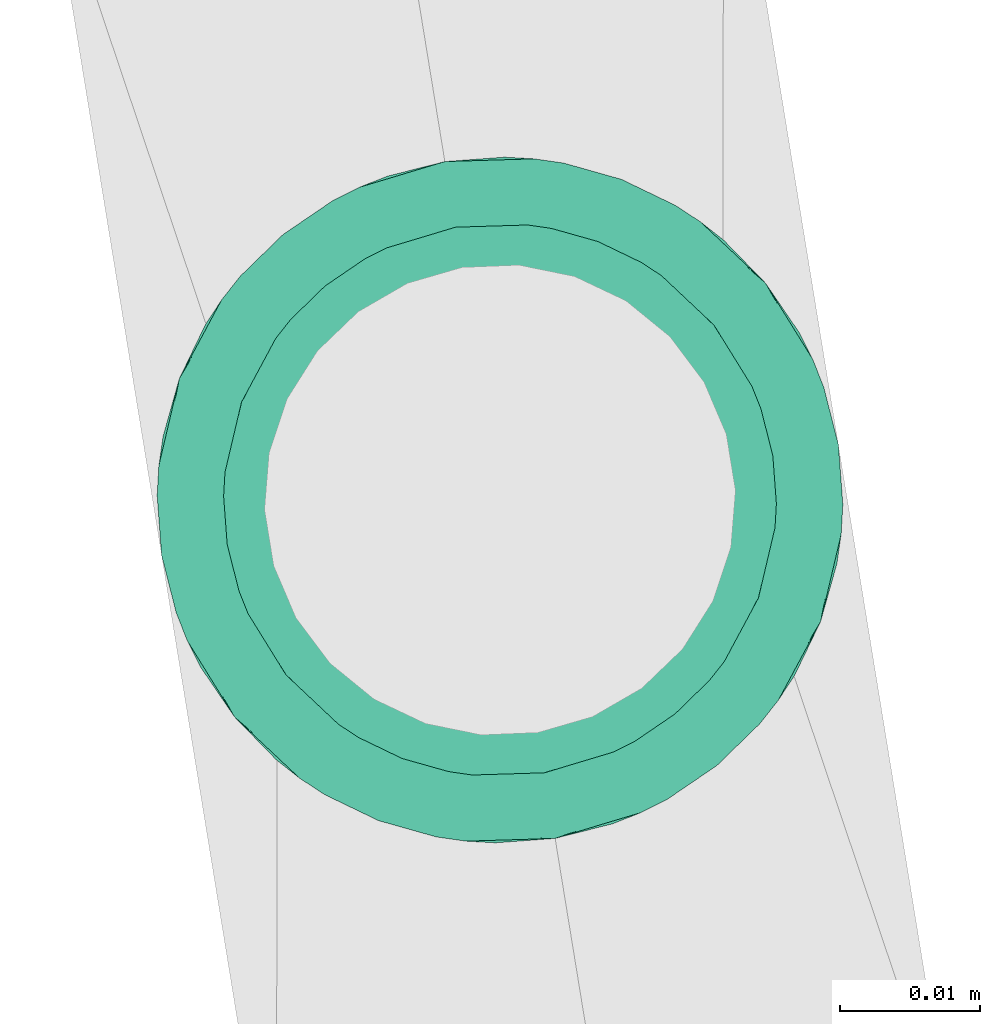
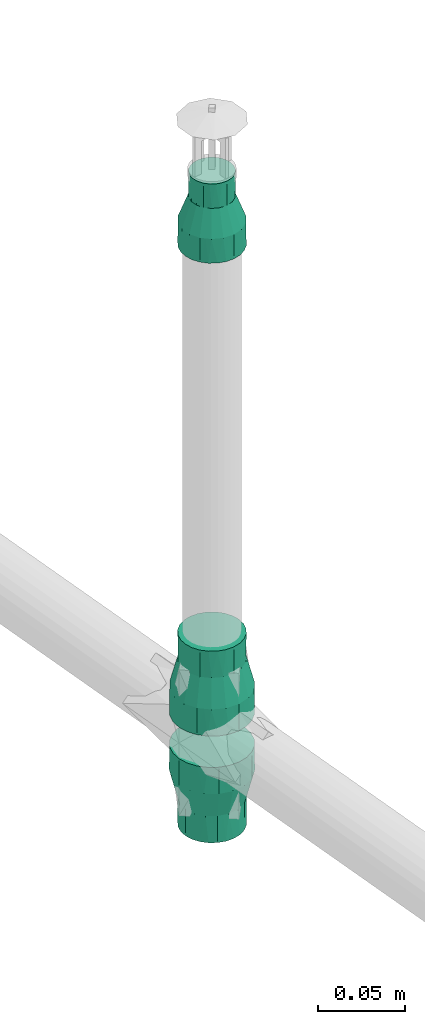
# One storey, part 40 of 56: 3 flow fittings.
"""IFC2X3 building model written with IfcOpenShell, lengths in millimetres."""

from ifc_helpers import new_model, entity, si_unit, converted_unit, derived_unit, direction, frame, origin, origin_with_axes, place, context, subcontext, project, spatial, faceted_brep, source, transform, mapped, material, type_object, element, save


model = new_model("IFC2X3")

# Units and contexts
model_context = context("Model", 3, precision=0.01, world=origin(), true_north=direction((6.12323399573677e-17, 1.0)))
plan_context = context("Plan", 3, precision=1e-05, world=origin_with_axes())
body_context = subcontext(model_context, "Body", "Model", "MODEL_VIEW")
ifc_project = project(units=[converted_unit("PLANEANGLEUNIT", "DEGREE", entity("IfcPositiveLengthMeasure", 0.0174532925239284), si_unit("PLANEANGLEUNIT", "RADIAN"), dimensions=[0, 0, 0, 0, 0, 0, 0]), si_unit("AREAUNIT", "SQUARE_METRE"), si_unit("LENGTHUNIT", "METRE", prefix="MILLI"), si_unit("MASSUNIT", "GRAM", prefix="KILO"), si_unit("POWERUNIT", "WATT"), si_unit("PRESSUREUNIT", "PASCAL", prefix="KILO"), si_unit("FORCEUNIT", "NEWTON", prefix="KILO"), si_unit("ELECTRICVOLTAGEUNIT", "VOLT"), si_unit("ELECTRICCURRENTUNIT", "AMPERE"), si_unit("THERMODYNAMICTEMPERATUREUNIT", "DEGREE_CELSIUS"), si_unit("TIMEUNIT", "SECOND"), si_unit("VOLUMEUNIT", "CUBIC_METRE"), derived_unit("LINEARVELOCITYUNIT", [(si_unit("LENGTHUNIT", "METRE"), 1), (si_unit("TIMEUNIT", "SECOND"), -1)]), derived_unit("VOLUMETRICFLOWRATEUNIT", [(si_unit("VOLUMEUNIT", "CUBIC_METRE"), 1), (si_unit("TIMEUNIT", "SECOND"), -1)]), derived_unit("THERMALTRANSMITTANCEUNIT", [(si_unit("POWERUNIT", "WATT"), 1), (si_unit("THERMODYNAMICTEMPERATUREUNIT", "KELVIN"), -1), (si_unit("AREAUNIT", "SQUARE_METRE"), -1)]), derived_unit("SOUNDPRESSUREUNIT", [(si_unit("PRESSUREUNIT", "PASCAL"), 1)])], contexts=[model_context, plan_context])

# Site, building, storey
site_placement = place(None, frame((-3.09682673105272e-06, 1.93776733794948e-05, 0.0), z_axis=(0.0, 0.0, 1.0), x_axis=(-0.160806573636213, 0.986985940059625, 0.0)))
site = spatial("IfcSite", under=ifc_project, at=site_placement, Name="Default", CompositionType="ELEMENT")
building_placement = place(site_placement, frame((0.0, 0.0, 0.0), z_axis=(0.0, 0.0, 1.0), x_axis=(1.0, -2.77555756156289e-17, 0.0)))
building = spatial("IfcBuilding", under=site, at=building_placement, Name="Bygning (endres i Project Information)", CompositionType="ELEMENT")
storey_placement = place(building_placement, frame((0.0, 0.0, 51360.0000000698), z_axis=(0.0, 0.0, 1.0), x_axis=(1.0, -2.77555756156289e-17, 0.0)))
storey = spatial("IfcBuildingStorey", under=building, at=storey_placement, Name="H01-Nivå D+0,36", CompositionType="ELEMENT", Elevation=51360.0000000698)

# Flow fittings
ifc_material = material(Name="3320.001")
pipe_fitting_type_1 = type_object("IfcPipeFittingType", Name="RS_53_PIF_UN_Reducing-Socket-EN10241_MC_gen:RS_53_PIF_UN_Reducing-Socket-EN10241_MC_gen", PredefinedType="NOTDEFINED", material=ifc_material)
shared_shape_1 = source(origin(), body_context, "Body", "Brep", [
    faceted_brep([(0.0, 5.11167614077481, 19.0770350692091), (0.0, 9.87500000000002, 17.1040017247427), (0.0, 13.9653589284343, 13.9653589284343), (0.0, 17.1040017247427, 9.87499999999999), (0.0, 19.0770350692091, 5.11167614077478), (0.0, 19.75, 0.0), (0.0, 19.0770350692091, -5.1116761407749), (0.0, 17.1040017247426, -9.8750000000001), (0.0, 13.9653589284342, -13.9653589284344), (0.0, 9.87499999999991, -17.1040017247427), (0.0, 5.11167614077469, -19.0770350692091), (0.0, 0.0, -19.75), (0.0, -5.11167614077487, -19.0770350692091), (0.0, -9.87500000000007, -17.1040017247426), (0.0, -13.9653589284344, -13.9653589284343), (0.0, -17.1040017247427, -9.87499999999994), (0.0, -19.0770350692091, -5.11167614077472), (0.0, -19.75, 0.0), (0.0, -19.0770350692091, 5.11167614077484), (0.0, -17.1040017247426, 9.87500000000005), (0.0, -13.9653589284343, 13.9653589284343), (0.0, -9.87499999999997, 17.1040017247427), (0.0, -5.11167614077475, 19.0770350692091), (0.0, 0.0, 19.75), (17.0, -6.65118285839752, -18.277344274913), (17.0, -15.1289479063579, -12.6955675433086), (17.0, -16.8438814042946, -9.72538978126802), (17.0, -18.5588149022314, -6.7552120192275), (17.0, -9.87413131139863, -17.1045032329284), (17.0, -12.5015396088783, -14.9000353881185), (17.0, -19.1544074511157, -3.37760600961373), (17.0, -3.42823440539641, -19.4501853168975), (17.0, 3.43119786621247, -19.4496627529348), (17.0, 0.0014817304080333, -19.4499240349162), (17.0, -19.75, 0.0), (17.0, 6.65396758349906, -18.2763306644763), (17.0, 9.87673730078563, -17.1029985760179), (17.0, 18.5598439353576, -6.75238425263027), (17.0, 16.8453630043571, -9.7228232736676), (17.0, 15.1308820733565, -12.6932622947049), (17.0, 12.5038096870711, -14.8981304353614), (17.0, 19.75, 0.0), (17.0, 15.1308820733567, 12.6932622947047), (17.0, 16.8453630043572, 9.72282327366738), (17.0, 18.5598439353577, 6.75238425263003), (17.0, 9.87673730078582, 17.1029985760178), (17.0, 12.5038096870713, 14.8981304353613), (17.0, 3.43119786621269, 19.4496627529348), (17.0, 6.65396758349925, 18.2763306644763), (17.0, -3.4282344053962, 19.4501853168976), (17.0, 0.00148173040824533, 19.4499240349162), (17.0, -15.1289479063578, 12.6955675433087), (17.0, -6.65118285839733, 18.277344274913), (17.0, -9.87413131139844, 17.1045032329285), (17.0, -12.5015396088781, 14.9000353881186), (17.0, -19.1544074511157, 3.37760600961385), (17.0, -18.5588149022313, 6.75521201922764), (17.0, -16.8438814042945, 9.72538978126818), (34.0, 13.5000000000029, 0.0), (34.0, 12.6868795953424, -4.61444320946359), (34.0, -4.54589529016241, -12.4935366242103), (34.0, -2.34276817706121, -13.2951659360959), (34.0, 6.75195505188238, -11.6902139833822), (34.0, 0.00166747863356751, -13.2948718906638), (34.0, 2.34610313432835, -13.2945778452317), (34.0, 10.3432928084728, -8.67561489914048), (34.0, 8.54762393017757, -10.1829144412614), (34.0, 4.54902909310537, -12.492395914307), (34.0, 11.5150862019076, -6.64502905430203), (34.0, -6.74902240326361, -11.6919073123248), (34.0, -13.4999999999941, 0.0), (34.0, -13.0928608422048, -2.30881275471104), (34.0, -10.3411162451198, -8.6782091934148), (34.0, -8.54506932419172, -10.1850582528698), (34.0, -12.6857216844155, -4.61762550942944), (34.0, -11.5134189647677, -6.64791735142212), (34.0, -13.0928608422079, 2.30881275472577), (34.0, -12.6857216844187, 4.6176255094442), (34.0, 2.34610313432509, 13.2945778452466), (34.0, 4.54902909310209, 12.4923959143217), (34.0, -10.3411162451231, 8.67820919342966), (34.0, 0.00166747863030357, 13.2948718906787), (34.0, -6.74902240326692, 11.6919073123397), (34.0, -8.54506932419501, 10.1850582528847), (34.0, -11.5134189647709, 6.64791735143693), (34.0, -2.34276817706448, 13.2951659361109), (34.0, -4.5458952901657, 12.4935366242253), (34.0, 12.6868795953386, 4.61444320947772), (34.0, 11.5150862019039, 6.64502905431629), (34.0, 10.3432928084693, 8.67561489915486), (34.0, 6.7519550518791, 11.6902139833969), (34.0, 8.54762393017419, 10.1829144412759), (51.0, 3.49405710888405, -13.0399986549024), (51.0, 6.75000000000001, -11.6913429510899), (51.0, 9.5459415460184, -9.54594154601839), (51.0, 11.6913429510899, -6.74999999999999), (51.0, 13.0399986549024, -3.49405710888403), (51.0, 13.5, 0.0), (51.0, 13.0399986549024, 3.49405710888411), (51.0, 11.6913429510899, 6.75000000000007), (51.0, 9.54594154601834, 9.54594154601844), (51.0, 6.74999999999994, 11.69134295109), (51.0, 3.49405710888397, 13.0399986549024), (51.0, 0.0, 13.5), (51.0, -3.49405710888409, 13.0399986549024), (51.0, -6.75000000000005, 11.6913429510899), (51.0, -9.54594154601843, 9.54594154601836), (51.0, -11.6913429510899, 6.74999999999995), (51.0, -13.0399986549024, 3.49405710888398), (51.0, -13.5, 0.0), (51.0, -13.0399986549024, -3.49405710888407), (51.0, -11.6913429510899, -6.75000000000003), (51.0, -9.54594154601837, -9.54594154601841), (51.0, -6.74999999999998, -11.6913429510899), (51.0, -3.49405710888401, -13.0399986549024), (51.0, 0.0, -13.5)], [[[0, 1, 2, 3, 4, 5, 6, 7, 8, 9, 10, 11, 12, 13, 14, 15, 16, 17, 18, 19, 20, 21, 22, 23]], [[24, 13, 12]], [[15, 14, 25]], [[15, 25, 26, 27]], [[28, 29, 13]], [[16, 27, 30]], [[30, 17, 16]], [[15, 27, 16]], [[12, 31, 24]], [[25, 14, 29]], [[11, 32, 33, 31]], [[24, 28, 13]], [[13, 29, 14]], [[30, 34, 17]], [[32, 11, 10]], [[35, 9, 36]], [[7, 37, 38, 39]], [[9, 35, 10]], [[7, 6, 37]], [[8, 39, 40]], [[32, 10, 35]], [[7, 39, 8]], [[40, 36, 9]], [[6, 41, 37]], [[6, 5, 41]], [[11, 31, 12]], [[40, 9, 8]], [[41, 5, 4]], [[3, 2, 42]], [[3, 42, 43, 44]], [[45, 46, 1]], [[44, 41, 4]], [[0, 47, 48]], [[42, 2, 46]], [[23, 49, 50, 47]], [[1, 46, 2]], [[49, 23, 22]], [[19, 51, 20]], [[52, 21, 53]], [[3, 44, 4]], [[48, 45, 1]], [[54, 53, 21]], [[17, 34, 55]], [[21, 52, 22]], [[20, 51, 54]], [[49, 22, 52]], [[48, 1, 0]], [[17, 55, 18]], [[56, 19, 18]], [[18, 55, 56]], [[54, 21, 20]], [[57, 51, 19, 56]], [[23, 47, 0]], [[41, 58, 59]], [[60, 31, 61]], [[40, 62, 36]], [[63, 32, 64]], [[65, 39, 38]], [[64, 32, 35]], [[61, 33, 63]], [[37, 41, 59]], [[62, 40, 66]], [[40, 39, 66]], [[35, 36, 67]], [[65, 38, 68]], [[37, 68, 38]], [[64, 35, 67]], [[61, 31, 33]], [[69, 28, 24]], [[69, 24, 60]], [[70, 30, 71]], [[72, 29, 73]], [[30, 70, 34]], [[74, 27, 26]], [[68, 37, 59]], [[72, 25, 29]], [[27, 74, 71]], [[31, 60, 24]], [[29, 28, 73]], [[75, 26, 25]], [[67, 36, 62]], [[66, 39, 65]], [[27, 71, 30]], [[74, 26, 75]], [[73, 28, 69]], [[63, 33, 32]], [[75, 25, 72]], [[56, 76, 77]], [[48, 78, 79]], [[54, 51, 80]], [[81, 47, 50]], [[57, 56, 77]], [[52, 53, 82]], [[82, 53, 83]], [[55, 70, 76]], [[70, 55, 34]], [[84, 51, 57]], [[50, 85, 81]], [[56, 55, 76]], [[86, 49, 52]], [[83, 53, 54]], [[81, 78, 47]], [[48, 47, 78]], [[80, 51, 84]], [[49, 85, 50]], [[87, 44, 88]], [[87, 58, 41]], [[43, 42, 89]], [[57, 77, 84]], [[46, 45, 90]], [[85, 49, 86]], [[88, 44, 43]], [[54, 80, 83]], [[91, 42, 46]], [[52, 82, 86]], [[89, 42, 91]], [[87, 41, 44]], [[90, 45, 79]], [[46, 90, 91]], [[79, 45, 48]], [[43, 89, 88]], [[92, 93, 94, 95, 96, 97, 98, 99, 100, 101, 102, 103, 104, 105, 106, 107, 108, 109, 110, 111, 112, 113, 114, 115]], [[58, 97, 96]], [[95, 94, 65]], [[95, 65, 68, 59]], [[62, 66, 93]], [[59, 58, 96]], [[92, 64, 67]], [[65, 94, 66]], [[115, 61, 63, 64]], [[93, 66, 94]], [[67, 93, 92]], [[67, 62, 93]], [[95, 59, 96]], [[114, 61, 115]], [[111, 110, 74]], [[73, 113, 112]], [[109, 71, 110]], [[111, 74, 75, 72]], [[109, 70, 71]], [[60, 61, 114]], [[113, 69, 60]], [[111, 72, 112]], [[113, 60, 114]], [[112, 72, 73]], [[115, 64, 92]], [[71, 74, 110]], [[73, 69, 113]], [[86, 105, 104]], [[107, 106, 80]], [[107, 80, 84, 77]], [[82, 83, 105]], [[108, 77, 76]], [[76, 70, 109]], [[76, 109, 108]], [[104, 85, 86]], [[80, 106, 83]], [[103, 78, 81, 85]], [[91, 101, 100]], [[105, 83, 106]], [[86, 82, 105]], [[78, 103, 102]], [[79, 101, 90]], [[99, 87, 88, 89]], [[101, 79, 102]], [[99, 98, 87]], [[100, 89, 91]], [[78, 102, 79]], [[103, 85, 104]], [[99, 89, 100]], [[98, 58, 87]], [[107, 77, 108]], [[98, 97, 58]], [[91, 90, 101]]]),
])
flow_fitting_1_placement = place(storey_placement, frame((997236.263254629, -392286.663841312, 3707.99999993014), z_axis=(2.77555756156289e-17, 1.0, 0.0), x_axis=(0.0, 0.0, 1.0)))
element("IfcFlowFitting", 1, at=flow_fitting_1_placement, inside=storey, type_object=pipe_fitting_type_1, material=ifc_material, Name="RS_53_PIF_UN_Reducing-Socket-EN10241_MC_gen:RS_53_PIF_UN_Reducing-Socket-EN10241_MC_gen", ObjectType="RS_53_PIF_UN_Reducing-Socket-EN10241_MC_gen:RS_53_PIF_UN_Reducing-Socket-EN10241_MC_gen", context=body_context, shape_type="MappedRepresentation", body=[
    mapped(shared_shape_1, transform((0.0, 0.0, 0.0), scale=1.0)),
])
pipe_fitting_type_2 = type_object("IfcPipeFittingType", Name="RS_53_PIF_UN_Reducing-Socket-EN10241_MC_gen:RS_53_PIF_UN_Reducing-Socket-EN10241_MC_gen", PredefinedType="NOTDEFINED", material=ifc_material)
shared_shape_2 = source(origin(), body_context, "Body", "Brep", [
    faceted_brep([(0.0, 0.0, 24.5), (0.0, 6.34106660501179, 23.6651827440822), (0.0, 12.25, 21.2176223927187), (0.0, 17.3241161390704, 17.3241161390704), (0.0, 21.2176223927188, 12.25), (0.0, 23.6651827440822, 6.34106660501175), (0.0, 24.5, 0.0), (0.0, 23.6651827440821, -6.34106660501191), (0.0, 21.2176223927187, -12.2500000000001), (0.0, 17.3241161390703, -17.3241161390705), (0.0, 12.2499999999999, -21.2176223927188), (0.0, 6.34106660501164, -23.6651827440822), (0.0, 0.0, -24.5), (0.0, -6.34106660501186, -23.6651827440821), (0.0, -12.2500000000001, -21.2176223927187), (0.0, -17.3241161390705, -17.3241161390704), (0.0, -21.2176223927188, -12.2499999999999), (0.0, -23.6651827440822, -6.34106660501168), (0.0, -24.5, 0.0), (0.0, -23.6651827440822, 6.34106660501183), (0.0, -21.2176223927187, 12.2500000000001), (0.0, -17.3241161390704, 17.3241161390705), (0.0, -12.25, 21.2176223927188), (0.0, -6.34106660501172, 23.6651827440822), (18.6666666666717, -8.25137606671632, -22.6729794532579), (18.6666666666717, -18.7677686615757, -15.7486780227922), (18.6666666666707, -20.8950763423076, -12.0642027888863), (18.6666666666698, -23.0223840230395, -8.37972755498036), (18.6666666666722, -12.2493529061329, -21.2179959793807), (18.6666666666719, -15.5085607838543, -18.4833370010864), (18.6666666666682, -23.7125607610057, -4.46565710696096), (18.6666666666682, -23.7611920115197, -4.18986377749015), (18.6666666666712, -4.25339922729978, -24.1279629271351), (18.6666666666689, 4.25560674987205, -24.1275736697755), (18.6666666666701, 0.00110376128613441, -24.1277682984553), (18.6666666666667, -24.5, 0.0), (18.6666666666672, 8.25345045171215, -22.6722244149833), (18.6666666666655, 12.2512941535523, -21.2168751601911), (18.6666666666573, 23.0231506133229, -8.37762113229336), (18.6666666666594, 20.8961800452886, -12.062290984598), (18.6666666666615, 18.7692094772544, -15.7469608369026), (18.6666666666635, 15.5102518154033, -18.4819179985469), (18.6666666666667, 24.5, 0.0), (18.6666666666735, 18.7692094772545, 15.7469608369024), (18.666666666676, 20.8961800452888, 12.0622909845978), (18.6666666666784, 23.023150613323, 8.3776211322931), (18.6666666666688, 12.2512941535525, 21.216875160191), (18.6666666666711, 15.5102518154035, 18.4819179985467), (18.6666666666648, 4.25560674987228, 24.1275736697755), (18.6666666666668, 8.25345045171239, 22.6722244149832), (18.6666666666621, -4.25339922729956, 24.1279629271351), (18.6666666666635, 0.00110376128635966, 24.1277682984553), (18.6666666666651, -23.7611920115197, 4.1898637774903), (18.6666666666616, -8.25137606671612, 22.672979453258), (18.666666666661, -12.2493529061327, 21.2179959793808), (18.6666666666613, -15.5085607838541, 18.4833370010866), (18.6666666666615, -18.7677686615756, 15.7486780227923), (18.6666666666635, -23.0223840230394, 8.37972755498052), (18.6666666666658, -23.7125607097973, 4.46565739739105), (18.6666666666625, -20.8950763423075, 12.0642027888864), (37.3333333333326, 19.750000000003, 0.0), (37.3333333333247, 18.5595959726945, -6.75306577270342), (37.3333333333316, 9.87626627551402, -17.1032705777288), (37.3333333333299, 12.5033702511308, -14.8985095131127), (37.3333333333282, 15.1304742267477, -12.6937484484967), (37.3333333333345, 3.43075149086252, -19.4497414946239), (37.333333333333, 6.65350888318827, -18.2765060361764), (37.3333333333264, 16.8450350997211, -9.72340711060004), (37.3333333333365, -3.42859151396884, -19.4501223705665), (37.3333333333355, 0.00107998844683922, -19.4499319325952), (37.3333333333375, -9.87436684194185, -17.1043672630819), (37.333333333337, -6.65147917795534, -18.2772448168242), (37.3333333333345, -19.1544229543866, -3.37756341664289), (37.3333333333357, -18.558845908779, -6.75512683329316), (37.3333333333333, -19.7499999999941, 0.0), (37.3333333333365, -16.8439551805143, -9.72527774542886), (37.3333333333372, -15.1290644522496, -12.6954286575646), (37.3333333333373, -12.5017156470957, -14.8998979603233), (37.3333333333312, -18.5588459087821, 6.755126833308), (37.3333333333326, -19.1544229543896, 3.37756341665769), (37.3333333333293, -15.1290644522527, 12.6954286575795), (37.3333333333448, 18.559595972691, 6.75306577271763), (37.3333333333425, 16.8450350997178, 9.72340711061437), (37.3333333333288, -9.87436684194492, 17.104367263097), (37.3333333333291, -12.5017156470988, 14.8998979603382), (37.3333333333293, -6.65147917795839, 18.2772448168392), (37.3333333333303, -16.8439551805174, 9.72527774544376), (37.333333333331, 0.00107998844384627, 19.4499319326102), (37.3333333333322, 3.43075149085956, 19.4497414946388), (37.3333333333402, 15.1304742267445, 12.6937484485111), (37.333333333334, 6.65350888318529, 18.2765060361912), (37.3333333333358, 9.87626627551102, 17.1032705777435), (37.333333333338, 12.5033702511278, 14.8985095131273), (37.3333333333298, -3.42859151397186, 19.4501223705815), (56.0, 5.11167614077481, -19.0770350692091), (56.0, 9.87500000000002, -17.1040017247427), (56.0, 13.9653589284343, -13.9653589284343), (56.0, 17.1040017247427, -9.87499999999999), (56.0, 19.0770350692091, -5.11167614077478), (56.0, 19.75, 0.0), (56.0, 19.0770350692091, 5.1116761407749), (56.0, 17.1040017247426, 9.8750000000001), (56.0, 13.9653589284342, 13.9653589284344), (56.0, 9.87499999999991, 17.1040017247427), (56.0, 5.11167614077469, 19.0770350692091), (56.0, 0.0, 19.75), (56.0, -5.11167614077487, 19.0770350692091), (56.0, -9.87500000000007, 17.1040017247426), (56.0, -13.9653589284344, 13.9653589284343), (56.0, -17.1040017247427, 9.87499999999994), (56.0, -19.0770350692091, 5.11167614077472), (56.0, -19.75, 0.0), (56.0, -19.0770350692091, -5.11167614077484), (56.0, -17.1040017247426, -9.87500000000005), (56.0, -13.9653589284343, -13.9653589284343), (56.0, -9.87499999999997, -17.1040017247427), (56.0, -5.11167614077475, -19.0770350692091), (56.0, 0.0, -19.75)], [[[0, 1, 2, 3, 4, 5, 6, 7, 8, 9, 10, 11, 12, 13, 14, 15, 16, 17, 18, 19, 20, 21, 22, 23]], [[24, 14, 13]], [[16, 15, 25]], [[16, 25, 26, 27]], [[28, 29, 14]], [[17, 27, 30, 31]], [[31, 18, 17]], [[16, 27, 17]], [[13, 32, 24]], [[25, 15, 29]], [[12, 33, 34, 32]], [[24, 28, 14]], [[14, 29, 15]], [[31, 35, 18]], [[33, 12, 11]], [[36, 10, 37]], [[8, 38, 39, 40]], [[10, 36, 11]], [[8, 7, 38]], [[9, 40, 41]], [[33, 11, 36]], [[8, 40, 9]], [[41, 37, 10]], [[7, 42, 38]], [[7, 6, 42]], [[12, 32, 13]], [[41, 10, 9]], [[42, 6, 5]], [[4, 3, 43]], [[4, 43, 44, 45]], [[46, 47, 2]], [[45, 42, 5]], [[1, 48, 49]], [[43, 3, 47]], [[0, 50, 51, 48]], [[2, 47, 3]], [[50, 0, 23]], [[0, 48, 1]], [[18, 52, 19]], [[53, 22, 54]], [[49, 2, 1]], [[55, 22, 21]], [[35, 52, 18]], [[4, 45, 5]], [[22, 53, 23]], [[21, 56, 55]], [[50, 23, 53]], [[49, 46, 2]], [[20, 56, 21]], [[57, 20, 19]], [[19, 52, 58, 57]], [[55, 54, 22]], [[59, 56, 20, 57]], [[42, 60, 61]], [[41, 62, 37]], [[63, 40, 64]], [[40, 39, 64]], [[33, 36, 65]], [[65, 36, 66]], [[38, 42, 61]], [[64, 39, 67]], [[41, 40, 63]], [[36, 37, 66]], [[62, 41, 63]], [[38, 67, 39]], [[68, 34, 69]], [[68, 32, 34]], [[24, 70, 28]], [[32, 68, 71]], [[72, 35, 31, 30]], [[73, 27, 26]], [[72, 74, 35]], [[26, 75, 73]], [[76, 25, 29]], [[29, 77, 76]], [[70, 24, 71]], [[24, 32, 71]], [[70, 77, 28]], [[76, 75, 25]], [[28, 77, 29]], [[25, 75, 26]], [[73, 30, 27]], [[30, 73, 72]], [[66, 37, 62]], [[69, 34, 33]], [[69, 33, 65]], [[67, 38, 61]], [[78, 58, 79]], [[80, 55, 56]], [[81, 45, 82]], [[78, 59, 57]], [[83, 53, 54]], [[55, 80, 84]], [[79, 58, 52, 35]], [[78, 57, 58]], [[84, 54, 55]], [[85, 50, 53]], [[79, 35, 74]], [[86, 56, 59]], [[84, 83, 54]], [[48, 87, 88]], [[49, 48, 88]], [[59, 78, 86]], [[53, 83, 85]], [[87, 48, 51]], [[81, 60, 42]], [[44, 43, 89]], [[90, 46, 49]], [[47, 46, 91]], [[86, 80, 56]], [[82, 45, 44]], [[49, 88, 90]], [[92, 43, 47]], [[91, 46, 90]], [[51, 50, 93]], [[42, 45, 81]], [[85, 93, 50]], [[44, 89, 82]], [[51, 93, 87]], [[47, 91, 92]], [[89, 43, 92]], [[94, 95, 96, 97, 98, 99, 100, 101, 102, 103, 104, 105, 106, 107, 108, 109, 110, 111, 112, 113, 114, 115, 116, 117]], [[60, 99, 98]], [[97, 96, 64]], [[97, 64, 67, 61]], [[62, 63, 95]], [[61, 60, 98]], [[94, 65, 66]], [[64, 96, 63]], [[117, 68, 69, 65]], [[95, 63, 96]], [[117, 116, 68]], [[77, 70, 115]], [[66, 95, 94]], [[115, 70, 71]], [[113, 112, 73]], [[115, 71, 116]], [[117, 65, 94]], [[97, 61, 98]], [[72, 111, 74]], [[71, 68, 116]], [[113, 76, 114]], [[114, 76, 77]], [[77, 115, 114]], [[113, 73, 75, 76]], [[111, 72, 112]], [[66, 62, 95]], [[72, 73, 112]], [[85, 107, 106]], [[109, 108, 80]], [[109, 80, 86, 78]], [[83, 84, 107]], [[110, 78, 79]], [[79, 111, 110]], [[109, 78, 110]], [[106, 93, 85]], [[80, 108, 84]], [[105, 88, 87, 93]], [[85, 83, 107]], [[107, 84, 108]], [[79, 74, 111]], [[88, 105, 104]], [[90, 103, 91]], [[101, 81, 82, 89]], [[103, 90, 104]], [[101, 100, 81]], [[102, 89, 92]], [[88, 104, 90]], [[101, 89, 102]], [[92, 91, 103]], [[100, 60, 81]], [[100, 99, 60]], [[105, 93, 106]], [[92, 103, 102]]]),
])
flow_fitting_2_placement = place(storey_placement, frame((997236.263254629, -392286.663841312, 3380.93333333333), z_axis=(2.77555756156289e-17, 1.0, 0.0), x_axis=(0.0, 0.0, 1.0)))
element("IfcFlowFitting", 2, at=flow_fitting_2_placement, inside=storey, type_object=pipe_fitting_type_2, material=ifc_material, Name="RS_53_PIF_UN_Reducing-Socket-EN10241_MC_gen:RS_53_PIF_UN_Reducing-Socket-EN10241_MC_gen", ObjectType="RS_53_PIF_UN_Reducing-Socket-EN10241_MC_gen:RS_53_PIF_UN_Reducing-Socket-EN10241_MC_gen", context=body_context, shape_type="MappedRepresentation", body=[
    mapped(shared_shape_2, transform((0.0, 0.0, 0.0), scale=1.0)),
])
pipe_fitting_type_3 = type_object("IfcPipeFittingType", Name="RS_53_PIF_UN_Reducing-Socket-EN10241_MC_gen:RS_53_PIF_UN_Reducing-Socket-EN10241_MC_gen", PredefinedType="NOTDEFINED", material=ifc_material)
shared_shape_3 = source(origin(), body_context, "Body", "Brep", [
    faceted_brep([(0.0, -12.25, 21.2176223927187), (0.0, -6.34106660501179, 23.6651827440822), (0.0, 0.0, 24.5), (0.0, 6.34106660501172, 23.6651827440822), (0.0, 12.25, 21.2176223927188), (0.0, 17.3241161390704, 17.3241161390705), (0.0, 21.2176223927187, 12.2500000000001), (0.0, 23.6651827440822, 6.34106660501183), (0.0, 24.5, 0.0), (0.0, 23.6651827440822, -6.34106660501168), (0.0, 21.2176223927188, -12.2499999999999), (0.0, 17.3241161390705, -17.3241161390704), (0.0, 12.2500000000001, -21.2176223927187), (0.0, 6.34106660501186, -23.6651827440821), (0.0, 0.0, -24.5), (0.0, -6.34106660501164, -23.6651827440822), (0.0, -12.2499999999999, -21.2176223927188), (0.0, -17.3241161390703, -17.3241161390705), (0.0, -21.2176223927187, -12.2500000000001), (0.0, -23.6651827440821, -6.34106660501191), (0.0, -24.5, 0.0), (0.0, -23.6651827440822, 6.34106660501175), (0.0, -21.2176223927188, 12.25), (0.0, -17.3241161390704, 17.3241161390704), (18.6666666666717, 8.25137606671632, -22.6729794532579), (18.6666666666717, 18.7677686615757, -15.7486780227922), (18.6666666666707, 20.8950763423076, -12.0642027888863), (18.6666666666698, 23.0223840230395, -8.37972755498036), (18.6666666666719, 15.5085607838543, -18.4833370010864), (18.6666666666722, 12.2493529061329, -21.2179959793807), (18.6666666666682, 23.7611920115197, -4.18986377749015), (18.6666666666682, 23.7125607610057, -4.46565710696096), (18.6666666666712, 4.25339922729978, -24.1279629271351), (18.6666666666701, -0.00110376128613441, -24.1277682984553), (18.6666666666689, -4.25560674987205, -24.1275736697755), (18.6666666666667, 24.5, 0.0), (18.6666666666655, -12.2512941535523, -21.2168751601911), (18.6666666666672, -8.25345045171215, -22.6722244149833), (18.6666666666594, -20.8961800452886, -12.062290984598), (18.6666666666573, -23.0231506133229, -8.37762113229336), (18.6666666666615, -18.7692094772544, -15.7469608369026), (18.6666666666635, -15.5102518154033, -18.4819179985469), (18.6666666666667, -24.5, 0.0), (18.6666666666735, -18.7692094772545, 15.7469608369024), (18.666666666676, -20.8961800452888, 12.0622909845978), (18.6666666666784, -23.023150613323, 8.3776211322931), (18.6666666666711, -15.5102518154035, 18.4819179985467), (18.6666666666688, -12.2512941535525, 21.216875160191), (18.6666666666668, -8.25345045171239, 22.6722244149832), (18.6666666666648, -4.25560674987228, 24.1275736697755), (18.6666666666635, -0.00110376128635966, 24.1277682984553), (18.6666666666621, 4.25339922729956, 24.1279629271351), (18.6666666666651, 23.7611920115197, 4.1898637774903), (18.666666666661, 12.2493529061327, 21.2179959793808), (18.6666666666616, 8.25137606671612, 22.672979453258), (18.6666666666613, 15.5085607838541, 18.4833370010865), (18.6666666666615, 18.7677686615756, 15.7486780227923), (18.6666666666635, 23.0223840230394, 8.37972755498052), (18.6666666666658, 23.7125607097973, 4.46565739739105), (18.6666666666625, 20.8950763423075, 12.0642027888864), (37.3333333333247, -18.5595959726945, -6.75306577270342), (37.3333333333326, -19.750000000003, 0.0), (37.3333333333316, -9.87626627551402, -17.1032705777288), (37.3333333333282, -15.1304742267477, -12.6937484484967), (37.3333333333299, -12.5033702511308, -14.8985095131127), (37.3333333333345, -3.43075149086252, -19.4497414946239), (37.333333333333, -6.65350888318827, -18.2765060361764), (37.3333333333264, -16.8450350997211, -9.72340711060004), (37.3333333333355, -0.00107998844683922, -19.4499319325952), (37.3333333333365, 3.42859151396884, -19.4501223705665), (37.3333333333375, 9.87436684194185, -17.1043672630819), (37.333333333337, 6.65147917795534, -18.2772448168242), (37.3333333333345, 19.1544229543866, -3.37756341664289), (37.3333333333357, 18.558845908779, -6.75512683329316), (37.3333333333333, 19.7499999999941, 0.0), (37.3333333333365, 16.8439551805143, -9.72527774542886), (37.3333333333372, 15.1290644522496, -12.6954286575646), (37.3333333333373, 12.5017156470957, -14.8998979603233), (37.3333333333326, 19.1544229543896, 3.37756341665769), (37.3333333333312, 18.5588459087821, 6.755126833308), (37.3333333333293, 15.1290644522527, 12.6954286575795), (37.3333333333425, -16.8450350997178, 9.72340711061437), (37.3333333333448, -18.559595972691, 6.75306577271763), (37.3333333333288, 9.87436684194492, 17.104367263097), (37.3333333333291, 12.5017156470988, 14.8998979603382), (37.3333333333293, 6.65147917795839, 18.2772448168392), (37.3333333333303, 16.8439551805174, 9.72527774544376), (37.3333333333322, -3.43075149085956, 19.4497414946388), (37.333333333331, -0.00107998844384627, 19.4499319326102), (37.3333333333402, -15.1304742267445, 12.6937484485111), (37.333333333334, -6.65350888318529, 18.2765060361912), (37.3333333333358, -9.87626627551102, 17.1032705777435), (37.333333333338, -12.5033702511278, 14.8985095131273), (37.3333333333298, 3.42859151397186, 19.4501223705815), (56.0, 0.0, -19.75), (56.0, 5.11167614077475, -19.0770350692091), (56.0, 9.87499999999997, -17.1040017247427), (56.0, 13.9653589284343, -13.9653589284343), (56.0, 17.1040017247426, -9.87500000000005), (56.0, 19.0770350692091, -5.11167614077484), (56.0, 19.75, 0.0), (56.0, 19.0770350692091, 5.11167614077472), (56.0, 17.1040017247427, 9.87499999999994), (56.0, 13.9653589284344, 13.9653589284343), (56.0, 9.87500000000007, 17.1040017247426), (56.0, 5.11167614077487, 19.0770350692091), (56.0, 0.0, 19.75), (56.0, -5.11167614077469, 19.0770350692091), (56.0, -9.87499999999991, 17.1040017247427), (56.0, -13.9653589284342, 13.9653589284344), (56.0, -17.1040017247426, 9.8750000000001), (56.0, -19.0770350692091, 5.1116761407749), (56.0, -19.75, 0.0), (56.0, -19.0770350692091, -5.11167614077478), (56.0, -17.1040017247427, -9.87499999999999), (56.0, -13.9653589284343, -13.9653589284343), (56.0, -9.87500000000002, -17.1040017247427), (56.0, -5.11167614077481, -19.0770350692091)], [[[0, 1, 2, 3, 4, 5, 6, 7, 8, 9, 10, 11, 12, 13, 14, 15, 16, 17, 18, 19, 20, 21, 22, 23]], [[13, 12, 24]], [[25, 11, 10]], [[26, 25, 10, 27]], [[12, 28, 29]], [[9, 30, 31, 27]], [[9, 8, 30]], [[9, 27, 10]], [[24, 32, 13]], [[28, 11, 25]], [[33, 34, 14, 32]], [[12, 29, 24]], [[11, 28, 12]], [[8, 35, 30]], [[15, 14, 34]], [[36, 16, 37]], [[38, 39, 18, 40]], [[15, 37, 16]], [[39, 19, 18]], [[41, 40, 17]], [[37, 15, 34]], [[17, 40, 18]], [[16, 36, 41]], [[39, 42, 19]], [[42, 20, 19]], [[13, 32, 14]], [[17, 16, 41]], [[21, 20, 42]], [[43, 23, 22]], [[44, 43, 22, 45]], [[0, 46, 47]], [[21, 42, 45]], [[48, 49, 1]], [[46, 23, 43]], [[50, 51, 2, 49]], [[23, 46, 0]], [[3, 2, 51]], [[1, 49, 2]], [[7, 52, 8]], [[53, 4, 54]], [[1, 0, 48]], [[5, 4, 55]], [[8, 52, 35]], [[21, 45, 22]], [[3, 54, 4]], [[55, 56, 5]], [[54, 3, 51]], [[0, 47, 48]], [[5, 56, 6]], [[7, 6, 57]], [[7, 57, 58, 52]], [[4, 53, 55]], [[6, 56, 59, 57]], [[60, 61, 42]], [[36, 62, 41]], [[63, 40, 64]], [[63, 38, 40]], [[65, 37, 34]], [[66, 37, 65]], [[60, 42, 39]], [[67, 38, 63]], [[64, 40, 41]], [[66, 36, 37]], [[64, 41, 62]], [[38, 67, 39]], [[68, 33, 69]], [[33, 32, 69]], [[29, 70, 24]], [[71, 69, 32]], [[72, 31, 30, 35]], [[26, 27, 73]], [[35, 74, 72]], [[73, 75, 26]], [[28, 25, 76]], [[76, 77, 28]], [[71, 24, 70]], [[71, 32, 24]], [[29, 77, 70]], [[25, 75, 76]], [[28, 77, 29]], [[26, 75, 25]], [[27, 31, 73]], [[72, 73, 31]], [[62, 36, 66]], [[34, 33, 68]], [[65, 34, 68]], [[60, 39, 67]], [[78, 58, 79]], [[56, 55, 80]], [[81, 45, 82]], [[57, 59, 79]], [[53, 54, 83]], [[84, 80, 55]], [[78, 35, 52, 58]], [[58, 57, 79]], [[55, 53, 84]], [[54, 51, 85]], [[74, 35, 78]], [[59, 56, 86]], [[53, 83, 84]], [[87, 88, 49]], [[87, 49, 48]], [[86, 79, 59]], [[85, 83, 54]], [[50, 49, 88]], [[42, 61, 82]], [[89, 43, 44]], [[48, 47, 90]], [[91, 47, 46]], [[56, 80, 86]], [[44, 45, 81]], [[90, 87, 48]], [[46, 43, 92]], [[90, 47, 91]], [[93, 51, 50]], [[82, 45, 42]], [[51, 93, 85]], [[81, 89, 44]], [[88, 93, 50]], [[92, 91, 46]], [[92, 43, 89]], [[94, 95, 96, 97, 98, 99, 100, 101, 102, 103, 104, 105, 106, 107, 108, 109, 110, 111, 112, 113, 114, 115, 116, 117]], [[113, 112, 61]], [[63, 115, 114]], [[67, 63, 114, 60]], [[116, 64, 62]], [[113, 61, 60]], [[66, 65, 117]], [[64, 115, 63]], [[68, 69, 94, 65]], [[115, 64, 116]], [[69, 95, 94]], [[96, 70, 77]], [[117, 116, 66]], [[71, 70, 96]], [[73, 99, 98]], [[95, 71, 96]], [[117, 65, 94]], [[113, 60, 114]], [[74, 100, 72]], [[95, 69, 71]], [[97, 76, 98]], [[77, 76, 97]], [[97, 96, 77]], [[75, 73, 98, 76]], [[99, 72, 100]], [[116, 62, 66]], [[99, 73, 72]], [[105, 104, 85]], [[80, 103, 102]], [[86, 80, 102, 79]], [[104, 84, 83]], [[78, 79, 101]], [[101, 100, 78]], [[101, 79, 102]], [[85, 93, 105]], [[84, 103, 80]], [[88, 87, 106, 93]], [[104, 83, 85]], [[103, 84, 104]], [[100, 74, 78]], [[107, 106, 87]], [[91, 108, 90]], [[81, 82, 110, 89]], [[107, 90, 108]], [[82, 111, 110]], [[92, 89, 109]], [[90, 107, 87]], [[109, 89, 110]], [[108, 91, 92]], [[82, 61, 111]], [[61, 112, 111]], [[105, 93, 106]], [[109, 108, 92]]]),
])
flow_fitting_3_placement = place(storey_placement, frame((997236.263254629, -392286.663841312, 3359.06666666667), z_axis=(1.0, -2.77555756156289e-17, 0.0), x_axis=(0.0, 0.0, -1.0)))
element("IfcFlowFitting", 3, at=flow_fitting_3_placement, inside=storey, type_object=pipe_fitting_type_3, material=ifc_material, Name="RS_53_PIF_UN_Reducing-Socket-EN10241_MC_gen:RS_53_PIF_UN_Reducing-Socket-EN10241_MC_gen", ObjectType="RS_53_PIF_UN_Reducing-Socket-EN10241_MC_gen:RS_53_PIF_UN_Reducing-Socket-EN10241_MC_gen", context=body_context, shape_type="MappedRepresentation", body=[
    mapped(shared_shape_3, transform((0.0, 0.0, 0.0), scale=1.0)),
])

save(model, "model.ifc")
